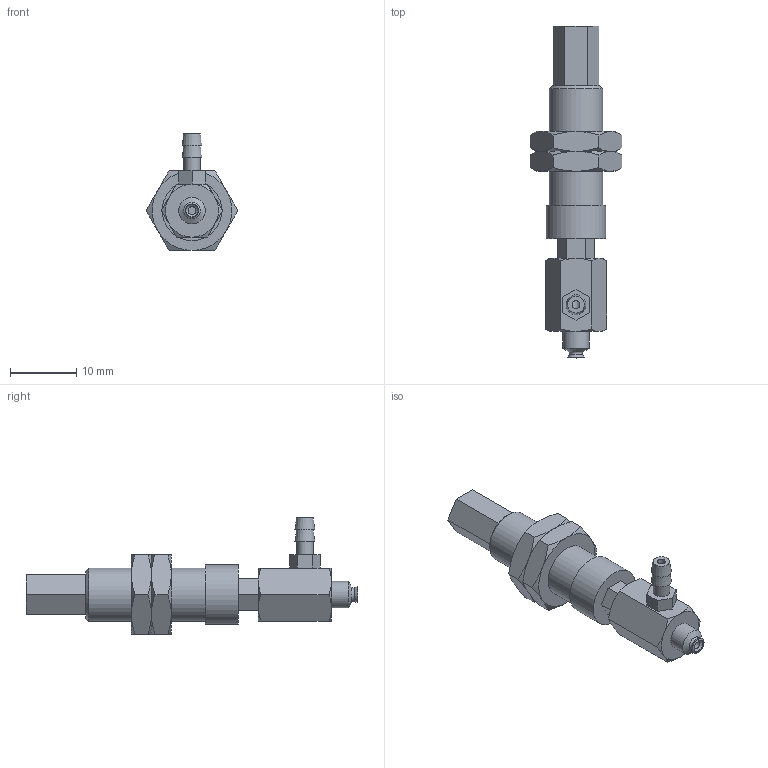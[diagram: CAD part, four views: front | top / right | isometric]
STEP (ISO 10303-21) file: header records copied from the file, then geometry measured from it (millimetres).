
FILE_DESCRIPTION(('STEP AP203'),'1');
FILE_NAME('-T.stp','2025-04-10T02:03:02',(' '),(' '),'Spatial InterOp 3D',' ',' ');
FILE_SCHEMA(('CONFIG_CONTROL_DESIGN'));
Length unit declared in the file: millimetre
Products named in the file (7): BNABPFYH-2A-3-※-T; CONNECTOR-H-2A-3; Nut-2A-3-h; NAPFTH-2A-3-FBODY; NAPFTH-2A-3-MBODY; BPFG-2A-※; T (2)
Assembly tree (7 placements, depth 2):
  BNABPFYH-2A-3-※-T
    CONNECTOR-H-2A-3
    Nut-2A-3-h  x2
    NAPFTH-2A-3-FBODY
    NAPFTH-2A-3-MBODY
    BPFG-2A-※
    T (2)
Bounding box: 13.86 x 50 x 17.6 mm (x, y, z)
Volume: 2693.6 mm3; surface area: 3323.3 mm2
Topology: 7 solids, 7 shells, 155 faces, 333 edges, 204 vertices
Faces by surface type: plane 76, cone 54, cylinder 17, torus 7, bspline 1
Full cylindrical faces by diameter (mm): 1.2 x3, 2 x2, 2.459 x2, 2.5 x1, 3 x4, 4 x1, 7.188 x2, 8 x1, 9 x1
Entity records: 3925 total; most frequent: CARTESIAN_POINT 919, DIRECTION 546, ORIENTED_EDGE 480, EDGE_CURVE 240, AXIS2_PLACEMENT_3D 221, EDGE_LOOP 194, VERTEX_POINT 170, FACE_OUTER_BOUND 156
